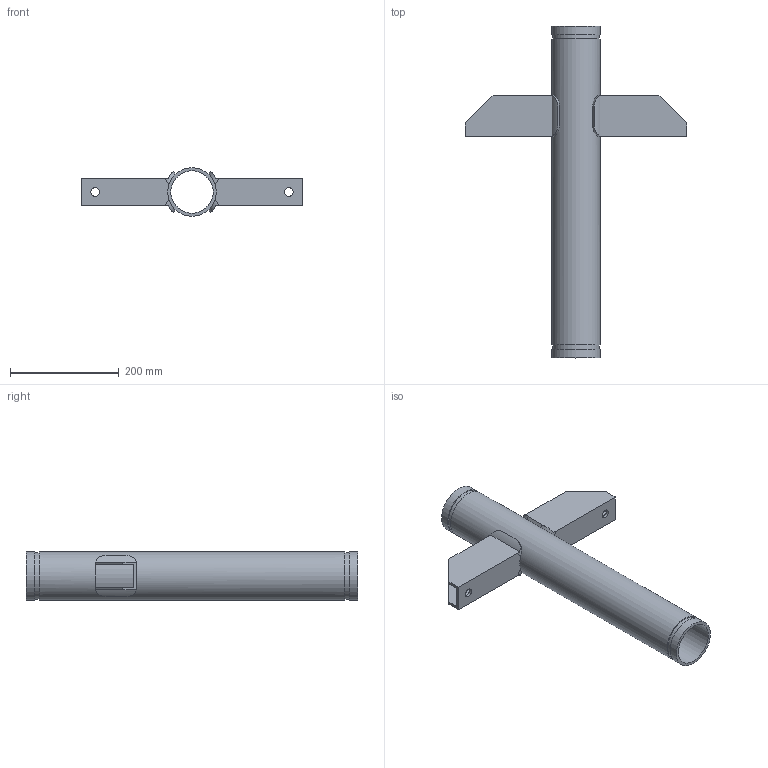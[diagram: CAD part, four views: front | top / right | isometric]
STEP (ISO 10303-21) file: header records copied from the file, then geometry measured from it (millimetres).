
FILE_DESCRIPTION(/* description */ ('VIC Floor-Mounted Carbon Steel Riser Anchor No A10','CAx-IF Rec.Pracs.---Representation and Presentation of Product Manufacturing Information (PMI)---4.0---2014-10-13'),/* implementation_level */ '2;1');
FILE_NAME(/* name */ 'C:\Users\kkamble\AppData\Roaming\Autodesk\ApplicationPlugins\Back Up\Victaulic_SS-OGS_Riser Anchor_No A10 (OGS)\Victaulic_SS-OGS_Riser Anchor_No A10 (OGS)_3 (80).stp',/* time_stamp */ '2020-08-25T18:06:42+06:00',/* author */ ('kkamble'),/* organization */ ('Victaulic'),/* preprocessor_version */ 'ST-DEVELOPER v17.2',/* originating_system */ 'Autodesk Inventor 2019',/* authorisation */ '');
FILE_SCHEMA (('AP242_MANAGED_MODEL_BASED_3D_ENGINEERING_MIM_LF { 1 0 10303 442 1 1 4 }'));
Length unit declared in the file: inch
Products named in the file (1): A10S-03.0
Bounding box: 406.4 x 609.6 x 88.9 mm (x, y, z)
Volume: 1219697.7 mm3; surface area: 443028.6 mm2
Topology: 1 solids, 1 shells, 56 faces, 159 edges, 110 vertices
Faces by surface type: plane 34, cylinder 22
Full cylindrical faces by diameter (mm): 15.875 x2, 77.927 x1, 84.938 x2, 88.9 x3
Entity records: 2213 total; most frequent: CARTESIAN_POINT 547, DIRECTION 329, ORIENTED_EDGE 318, EDGE_CURVE 159, AXIS2_PLACEMENT_3D 120, VERTEX_POINT 110, LINE 89, VECTOR 89
